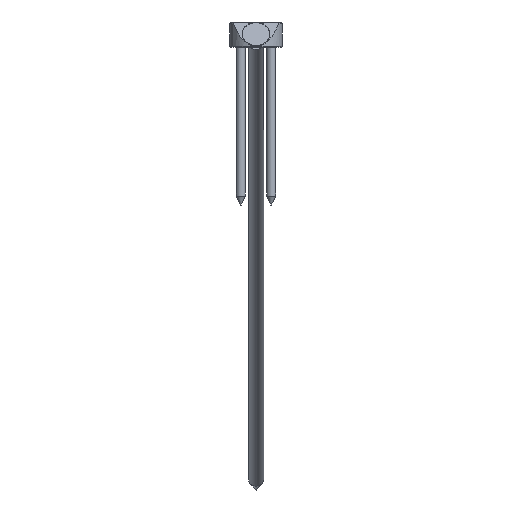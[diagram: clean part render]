
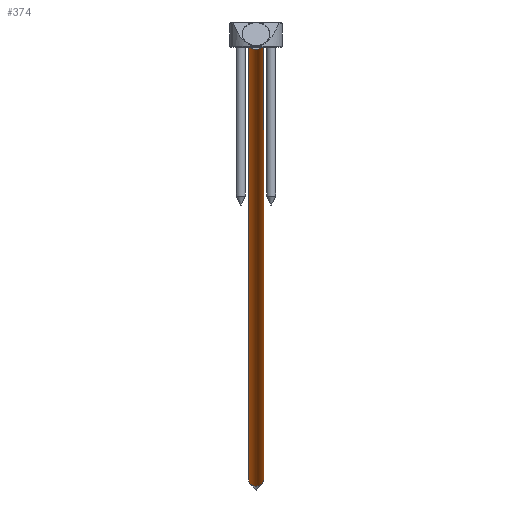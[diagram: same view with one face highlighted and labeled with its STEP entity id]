
A CAD part, front view. The second image highlights one B-rep face of the part: STEP entity #374.
In plain terms, the highlighted cylindrical face has radius 5 mm (diameter 10 mm), a full revolution.
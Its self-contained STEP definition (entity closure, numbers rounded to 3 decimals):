
#59=CYLINDRICAL_SURFACE('',#464,5.);
#132=ORIENTED_EDGE('',*,*,#169,.T.);
#133=ORIENTED_EDGE('',*,*,#168,.F.);
#168=EDGE_CURVE('',#199,#199,#226,.T.);
#169=EDGE_CURVE('',#200,#200,#227,.T.);
#199=VERTEX_POINT('',#700);
#200=VERTEX_POINT('',#703);
#226=CIRCLE('',#463,5.);
#227=CIRCLE('',#465,5.);
#279=EDGE_LOOP('',(#132));
#280=EDGE_LOOP('',(#133));
#334=FACE_BOUND('',#279,.T.);
#335=FACE_BOUND('',#280,.T.);
#374=ADVANCED_FACE('',(#334,#335),#59,.T.);
#463=AXIS2_PLACEMENT_3D('',#699,#584,#585);
#464=AXIS2_PLACEMENT_3D('',#701,#586,#587);
#465=AXIS2_PLACEMENT_3D('',#702,#588,#589);
#584=DIRECTION('',(0.,1.,0.));
#585=DIRECTION('',(0.,0.,1.));
#586=DIRECTION('',(0.,1.,0.));
#587=DIRECTION('',(0.,0.,1.));
#588=DIRECTION('',(0.,1.,0.));
#589=DIRECTION('',(0.,0.,1.));
#699=CARTESIAN_POINT('',(0.,42.,0.));
#700=CARTESIAN_POINT('',(0.,42.,5.));
#701=CARTESIAN_POINT('',(0.,54.,0.));
#702=CARTESIAN_POINT('',(0.,-533.,0.));
#703=CARTESIAN_POINT('',(0.,-533.,5.));
